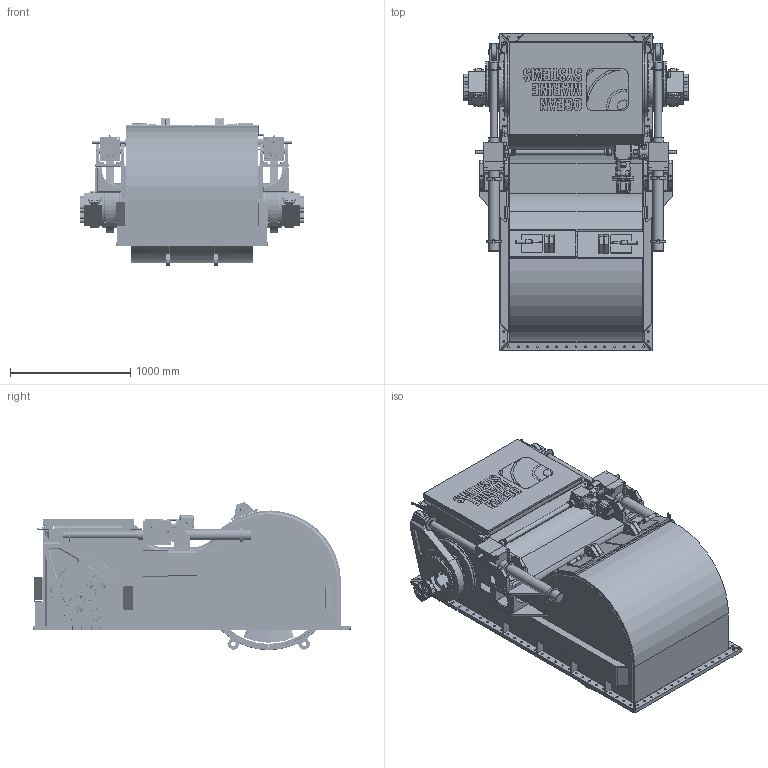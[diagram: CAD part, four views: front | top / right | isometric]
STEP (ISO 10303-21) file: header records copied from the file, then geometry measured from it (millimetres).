
FILE_DESCRIPTION(/* description */ (''),/* implementation_level */ '2;1');
FILE_NAME(/* name */ 'Q:\THRUSTERS\THRUSTER SALES & SUPPORT DOCS\THRUSTER Sales\H-S\H-1000-S\H-1000-S Retracted.stp',/* time_stamp */ '2021-01-26T13:00:15+00:00',/* author */ ('Barney.Webborn'),/* organization */ (''),/* preprocessor_version */ 'ST-DEVELOPER v17.2',/* originating_system */ 'Autodesk Inventor 2019',/* authorisation */ '');
FILE_SCHEMA (('AUTOMOTIVE_DESIGN { 1 0 10303 214 3 1 1 }'));
Length unit declared in the file: millimetre
Products named in the file (1): H-1000-S_Shrinkwrap_1
Bounding box: 1860 x 2635 x 1231 mm (x, y, z)
Volume: 510784722.5 mm3; surface area: 51291380.5 mm2
Topology: 16 solids, 16 shells, 6485 faces, 17307 edges, 11122 vertices
Faces by surface type: plane 3213, cylinder 1530, bspline 1142, cone 392, torus 160, sphere 48
Full cylindrical faces by diameter (mm): 3 x12, 7.2 x4, 7.5 x4, 8 x4, 10 x2, 12 x10, 15.8 x16, 16 x16, 16.5 x24, 16.75 x24, 17 x90, 17.29 x8, 17.5 x68, 18.376 x4, 20.5 x40, 21 x16, 23.75 x2, 24.5 x2, 25 x15, 25.5 x1, 26.25 x2, 28 x2, 28.5 x1, 29.425 x1, 30 x12, 31.25 x3, 31.42 x1, 31.67 x2, 32 x16, 32.195 x8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
Entity records: 304292 total; most frequent: CARTESIAN_POINT 140444, ORIENTED_EDGE 34332, DIRECTION 30308, EDGE_CURVE 17166, VERTEX_POINT 11122, AXIS2_PLACEMENT_3D 10393, LINE 9522, VECTOR 9522
